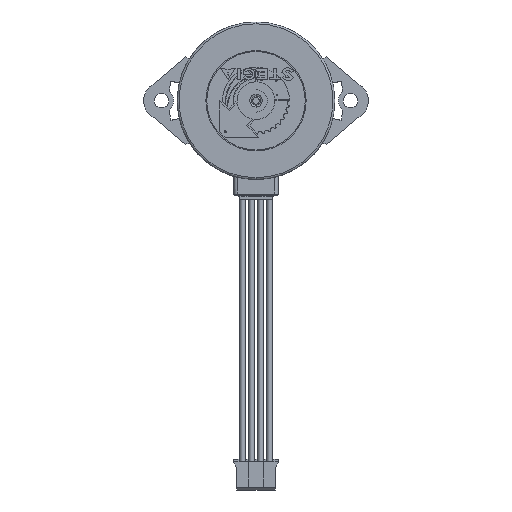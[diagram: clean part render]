
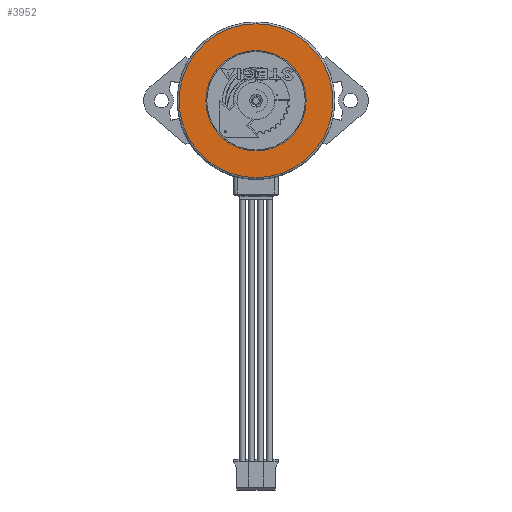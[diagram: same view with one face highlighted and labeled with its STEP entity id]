
A CAD part, front view. The second image highlights one B-rep face of the part: STEP entity #3952.
In plain terms, the highlighted planar face has unit normal (0, -1, 0).
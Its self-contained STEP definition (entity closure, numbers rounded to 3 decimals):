
#209 = EDGE_CURVE ( 'NONE', #16581, #22279, #709, .T. ) ;
#556 = CIRCLE ( 'NONE', #12361, 17.1 ) ;
#709 = CIRCLE ( 'NONE', #2251, 17.1 ) ;
#990 = DIRECTION ( 'NONE',  ( 0., 0., -1. ) ) ;
#1366 = CARTESIAN_POINT ( 'NONE',  ( 0., -14.75, 0. ) ) ;
#2021 = AXIS2_PLACEMENT_3D ( 'NONE', #15369, #9613, #23199 ) ;
#2251 = AXIS2_PLACEMENT_3D ( 'NONE', #15315, #10339, #12204 ) ;
#3327 = DIRECTION ( 'NONE',  ( 0., 0., 1. ) ) ;
#3440 = ORIENTED_EDGE ( 'NONE', *, *, #12751, .F. ) ;
#3952 = ADVANCED_FACE ( 'NONE', ( #5504, #20926 ), #11476, .F. ) ;
#5504 = FACE_BOUND ( 'NONE', #22970, .T. ) ;
#6220 = VERTEX_POINT ( 'NONE', #24448 ) ;
#7851 = CARTESIAN_POINT ( 'NONE',  ( 0., -14.75, -11.15 ) ) ;
#8879 = CARTESIAN_POINT ( 'NONE',  ( 0., -14.75, -17.1 ) ) ;
#9613 = DIRECTION ( 'NONE',  ( 0., 1., 0. ) ) ;
#10112 = VERTEX_POINT ( 'NONE', #7851 ) ;
#10339 = DIRECTION ( 'NONE',  ( 0., -1., 0. ) ) ;
#11468 = CARTESIAN_POINT ( 'NONE',  ( 0., -14.75, 0. ) ) ;
#11476 = PLANE ( 'NONE',  #2021 ) ;
#11936 = EDGE_CURVE ( 'NONE', #6220, #10112, #23695, .T. ) ;
#12204 = DIRECTION ( 'NONE',  ( 0., 0., 1. ) ) ;
#12361 = AXIS2_PLACEMENT_3D ( 'NONE', #1366, #14858, #3327 ) ;
#12547 = DIRECTION ( 'NONE',  ( 0., -1., 0. ) ) ;
#12751 = EDGE_CURVE ( 'NONE', #10112, #6220, #15736, .T. ) ;
#13407 = DIRECTION ( 'NONE',  ( 0., 0., -1. ) ) ;
#14577 = ORIENTED_EDGE ( 'NONE', *, *, #209, .T. ) ;
#14858 = DIRECTION ( 'NONE',  ( 0., -1., 0. ) ) ;
#15315 = CARTESIAN_POINT ( 'NONE',  ( 0., -14.75, 0. ) ) ;
#15369 = CARTESIAN_POINT ( 'NONE',  ( 0., -14.75, 0. ) ) ;
#15736 = CIRCLE ( 'NONE', #23142, 11.15 ) ;
#16581 = VERTEX_POINT ( 'NONE', #8879 ) ;
#18733 = EDGE_CURVE ( 'NONE', #22279, #16581, #556, .T. ) ;
#20926 = FACE_OUTER_BOUND ( 'NONE', #24237, .T. ) ;
#21201 = ORIENTED_EDGE ( 'NONE', *, *, #18733, .T. ) ;
#21691 = ORIENTED_EDGE ( 'NONE', *, *, #11936, .F. ) ;
#22279 = VERTEX_POINT ( 'NONE', #22792 ) ;
#22792 = CARTESIAN_POINT ( 'NONE',  ( 0., -14.75, 17.1 ) ) ;
#22970 = EDGE_LOOP ( 'NONE', ( #3440, #21691 ) ) ;
#23142 = AXIS2_PLACEMENT_3D ( 'NONE', #11468, #25012, #13407 ) ;
#23199 = DIRECTION ( 'NONE',  ( 0., 0., 1. ) ) ;
#23695 = CIRCLE ( 'NONE', #24686, 11.15 ) ;
#24148 = CARTESIAN_POINT ( 'NONE',  ( 0., -14.75, 0. ) ) ;
#24237 = EDGE_LOOP ( 'NONE', ( #21201, #14577 ) ) ;
#24448 = CARTESIAN_POINT ( 'NONE',  ( 0., -14.75, 11.15 ) ) ;
#24686 = AXIS2_PLACEMENT_3D ( 'NONE', #24148, #12547, #990 ) ;
#25012 = DIRECTION ( 'NONE',  ( 0., -1., 0. ) ) ;
